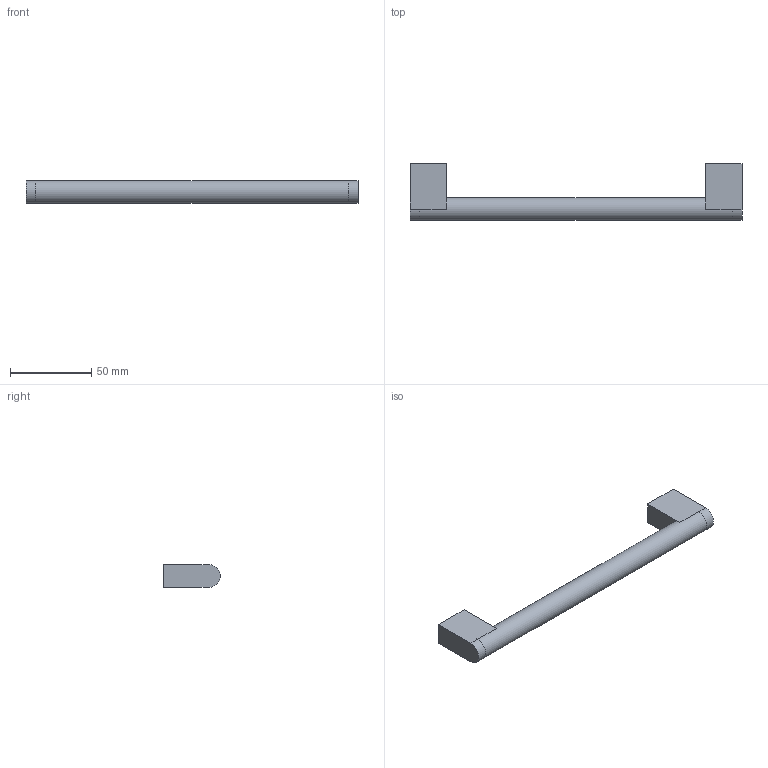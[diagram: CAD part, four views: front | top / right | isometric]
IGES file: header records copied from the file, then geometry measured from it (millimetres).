
Start section: Data from Parasolid IGES Translator 17.0.49, Copyright(c) 2006 Siemens P LM Software. All Rights Reserved.
Global section: file name: 9070104.igs; native system: By Siemens PLM Incorporated; preprocessor: XPlus GENERIC/IGES 17.0.49; author: Noname; organization: Noname; date: 20181120.154632; units: millimetre
Bounding box: 204 x 35 x 14 mm (x, y, z)
Surface area: 14355.5 mm2 (no closed solid volume)
Topology: 0 solids, 0 shells, 21 faces, 82 edges, 78 vertices
Faces by surface type: extrusion 14, revolution 7
